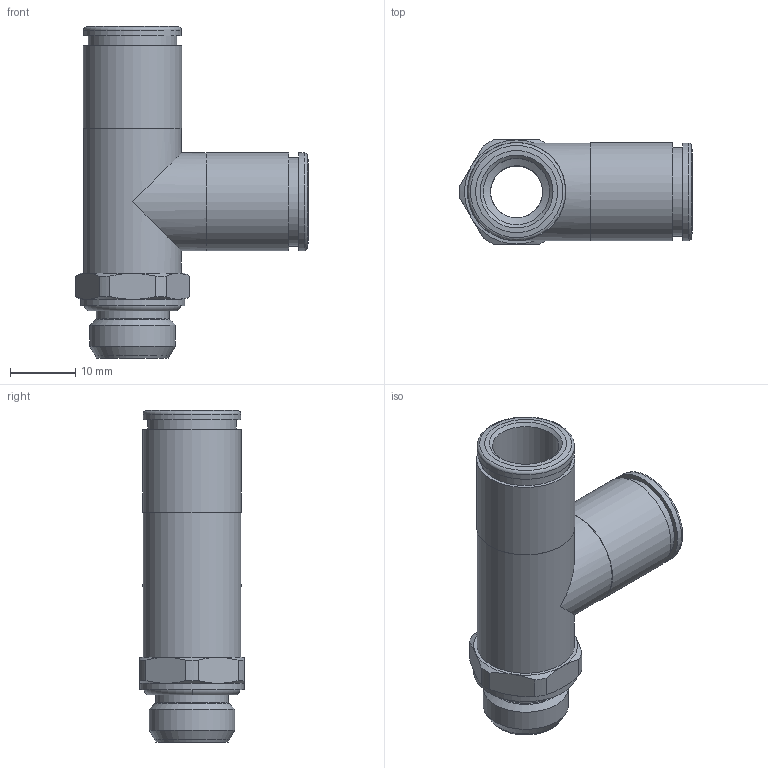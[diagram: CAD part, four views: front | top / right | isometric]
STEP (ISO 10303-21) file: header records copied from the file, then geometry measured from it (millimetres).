
FILE_DESCRIPTION(('Bauteilbeschreibung','HiCAD-Model','HiCAD-STEP-TRANSLATION','Bauteilbeschreibung'),'2;1');
FILE_NAME('B:/ABGLEICH/ZEICHNUNGEN/STEP FÜR INTERNET/STEP/IPSO 021/202108_IPSO_021_10_1-4.STP','2011-09-28T16:08:31+00:00',('Konstrukteur'),('Konstrukteur Firma GmbH'),' HiCAD neXt 2008, Step 3.1.1401.2J ','HiCAD neXt 2008','confidential');
FILE_SCHEMA(('AUTOMOTIVE_DESIGN { 1 2 10303 214 0 1 1 1 }'));
Length unit declared in the file: millimetre
Products named in the file (8): A02108_IPSO_021_10_1_4; OR 11_11X1_78; A14627_GEW_1_4_1_4; A146270GEW01040104; G 1_4; DR10_N; DR100N; R202108_N
Assembly tree (7 placements, depth 3):
  A02108_IPSO_021_10_1_4
    OR 11_11X1_78
    A14627_GEW_1_4_1_4
    A146270GEW01040104
      G 1_4
    DR10_N
    DR100N
    R202108_N
Bounding box: 35.74 x 16 x 51 mm (x, y, z)
Volume: 6466.3 mm3; surface area: 8577.6 mm2
Topology: 6 solids, 6 shells, 107 faces, 232 edges, 140 vertices
Faces by surface type: cone 40, cylinder 36, plane 23, torus 8
Full cylindrical faces by diameter (mm): 8 x3, 10.2 x4, 11.2 x1, 11.445 x2, 12.2 x2, 12.3 x2, 13 x2, 13.157 x1, 13.5 x1, 13.6 x2, 13.7 x2, 15 x4, 15.1 x2, 16 x1
Entity records: 3975 total; most frequent: CARTESIAN_POINT 1039, DIRECTION 480, ORIENTED_EDGE 312, AXIS2_PLACEMENT_3D 233, EDGE_LOOP 184, EDGE_CURVE 156, COLOUR_RGB 148, PRESENTATION_STYLE_ASSIGNMENT 148
